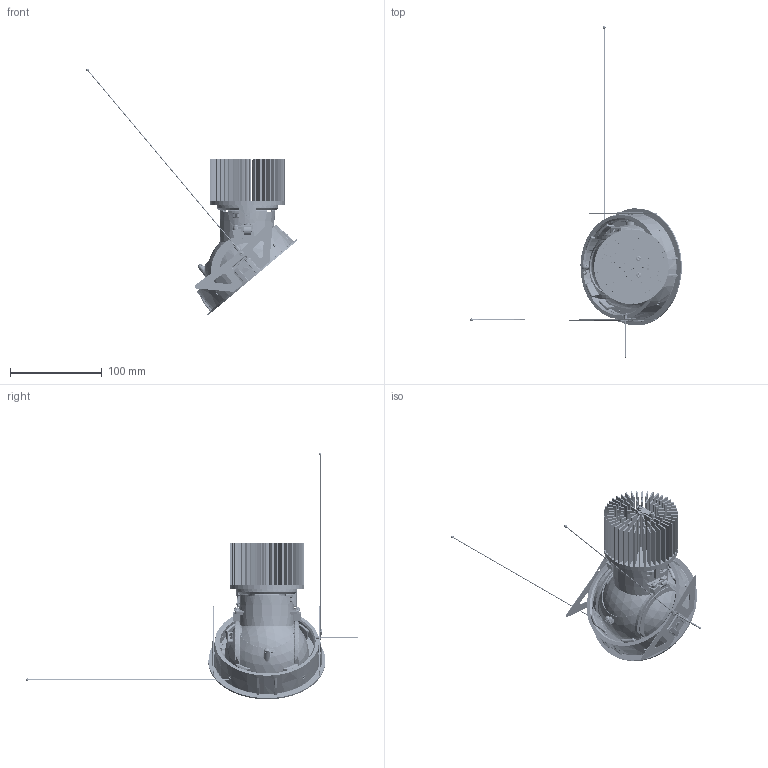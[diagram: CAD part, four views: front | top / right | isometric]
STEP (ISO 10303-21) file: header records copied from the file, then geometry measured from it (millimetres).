
FILE_DESCRIPTION((''),'2;1');
FILE_NAME('MOOD-PRO-L-ADJ-22082020_ASM','2020-09-03T',('Administrator'),(''),'PRO/ENGINEER BY PARAMETRIC TECHNOLOGY CORPORATION, 2001280','PRO/ENGINEER BY PARAMETRIC TECHNOLOGY CORPORATION, 2001280','');
FILE_SCHEMA(('CONFIG_CONTROL_DESIGN'));
Length unit declared in the file: millimetre
Products named in the file (44): 3-51775-REV02-24042020; 44365; 46593-44365; 45577; 1-52757-REV02-24042020; COD52755; CD52756; 1-52760; M3-ZS; 1-36145; 3_40799_1; 3_40845_1_2; 1_40802_1_1; 1-52093; CMT1420-LED; 52093-CMT1420_ASM; 1_40887_1; 1_00398_1; 1_40886_1_1; 1_23490; PRT0016_1; 1_43353_1; 1_42277_2; 1_43352_ASM_1_ASM; 1_42713; 1_43352_ASM; 13376; 1_43281; 1_40802_1; 1-43080; 1_38119_1; 1_10974; MANIFOLD_SOLID_BREP-273327_1_1; MANIFOLD_SOLID_BREP-273185_1_1; 1_13078_ASM_1_ASM_1_ASM; 1_13078_ASM; 1_41189_1; 1_38119; 1_40891_1; 1_01723_1_1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
Assembly tree (59 placements, depth 4):
  MOOD-PRO-L-ADJ-22082020_ASM
    3-51775-REV02-24042020
    44365
    46593-44365
    45577
    1-52757-REV02-24042020
    COD52755
    CD52756  x2
    1-52760  x2
    M3-ZS  x2
    1-36145  x2
    3_40799_1
    3_40845_1_2
    1_40802_1_1
    52093-CMT1420_ASM
      1-52093
      CMT1420-LED
    1_40887_1
    1_00398_1  x2
    1_40886_1_1
    1_23490  x2
    1_43352_ASM
      1_43352_ASM_1_ASM
        PRT0016_1
        1_43353_1
        1_42277_2  x2
      1_42713
    13376  x3
    1_43281
    1_40802_1
    1-43080
    1_38119_1
    1_10974  x2
    1_13078_ASM
      1_13078_ASM_1_ASM_1_ASM
        MANIFOLD_SOLID_BREP-273327_1_1
        MANIFOLD_SOLID_BREP-273185_1_1
    1_41189_1  x3
    1_38119
    1_40891_1
    1_01723_1_1
    1_37815  x2
    54418
    1_32729_1  x4
Bounding box: 230.83 x 362.31 x 269.23 mm (x, y, z)
Volume: 247061.7 mm3; surface area: 254636 mm2
Topology: 54 solids, 55 shells, 12577 faces, 35209 edges, 21396 vertices
Faces by surface type: plane 5984, cylinder 2424, bspline 1700, sphere 1633, cone 421, torus 349, extrusion 54, revolution 12
Entity records: 506821 total; most frequent: CARTESIAN_POINT 230035, ORIENTED_EDGE 64802, DIRECTION 46180, EDGE_CURVE 32401, VERTEX_POINT 20665, AXIS2_PLACEMENT_3D 16065, VECTOR 14038, LINE 13984
